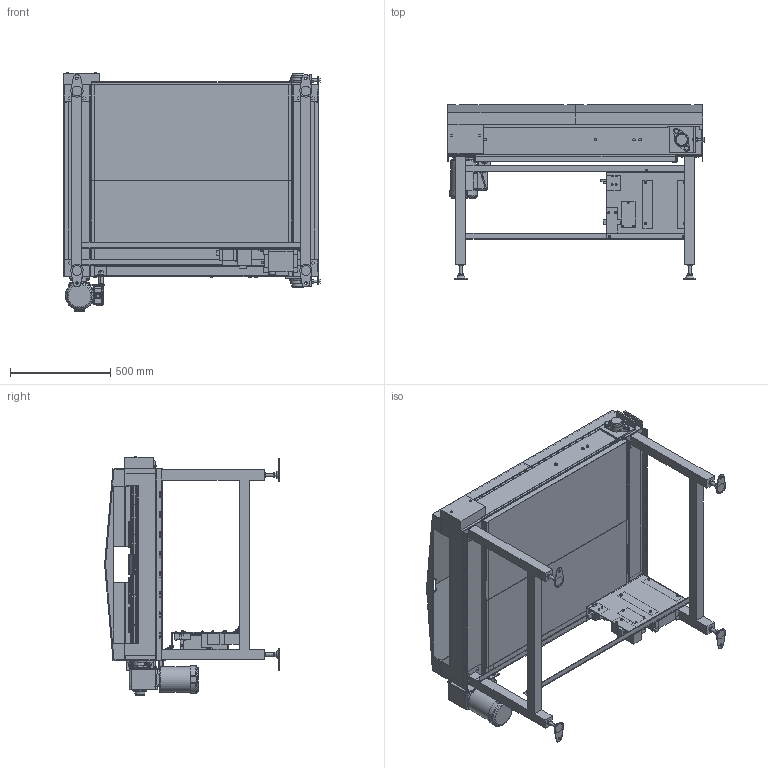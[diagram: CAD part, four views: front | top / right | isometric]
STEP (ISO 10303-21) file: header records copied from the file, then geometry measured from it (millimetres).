
FILE_DESCRIPTION( (''), '2;1');
FILE_NAME ('WEB-SLS-H-340-5-100-150-R-IVH-7.5.stp','2026-08-20T09:06:33',(''),(''),'spGate 21.9.5 (****-****-****-****)','','');
FILE_SCHEMA (('AUTOMOTIVE_DESIGN'));
Length unit declared in the file: millimetre
Products named in the file (84): WEB-SLS-H-340-5-100-150-R-IVH-7.5; TEMP_X_T-prt0; TEMP_X_T-prt1; TEMP_X_T-prt2; TEMP_X_T-prt3; TEMP_X_T-prt4; TEMP_X_T-prt5; TEMP_X_T-prt6; TEMP_X_T-prt7; TEMP_X_T-prt8; TEMP_X_T-prt9; TEMP_X_T-prt10; TEMP_X_T-prt11; TEMP_X_T-prt12; TEMP_X_T-prt13; TEMP_X_T-prt14; TEMP_X_T-prt15; TEMP_X_T-prt16; TEMP_X_T-prt17; TEMP_X_T-prt18; TEMP_X_T-prt19; TEMP_X_T-prt20; TEMP_X_T-prt21; TEMP_X_T-prt22; TEMP_X_T-prt23; TEMP_X_T-prt24; TEMP_X_T-prt25; TEMP_X_T-prt26; TEMP_X_T-prt27; TEMP_X_T-prt28; TEMP_X_T-prt29; TEMP_X_T-prt30; TEMP_X_T-prt31; TEMP_X_T-prt32; TEMP_X_T-prt33; TEMP_X_T-prt34; TEMP_X_T-prt35; TEMP_X_T-prt36; TEMP_X_T-prt37; TEMP_X_T-prt38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
Assembly tree (83 placements, depth 2):
  WEB-SLS-H-340-5-100-150-R-IVH-7.5
    TEMP_X_T-prt0
    TEMP_X_T-prt1
    TEMP_X_T-prt2
    TEMP_X_T-prt3
    TEMP_X_T-prt4
    TEMP_X_T-prt5
    TEMP_X_T-prt6
    TEMP_X_T-prt7
    TEMP_X_T-prt8
    TEMP_X_T-prt9
    TEMP_X_T-prt10
    TEMP_X_T-prt11
    TEMP_X_T-prt12
    TEMP_X_T-prt13
    TEMP_X_T-prt14
    TEMP_X_T-prt15
    TEMP_X_T-prt16
    TEMP_X_T-prt17
    TEMP_X_T-prt18
    TEMP_X_T-prt19
    TEMP_X_T-prt20
    TEMP_X_T-prt21
    TEMP_X_T-prt22
    TEMP_X_T-prt23
    TEMP_X_T-prt24
    TEMP_X_T-prt25
    TEMP_X_T-prt26
    TEMP_X_T-prt27
    TEMP_X_T-prt28
    TEMP_X_T-prt29
    TEMP_X_T-prt30
    TEMP_X_T-prt31
    TEMP_X_T-prt32
    TEMP_X_T-prt33
    TEMP_X_T-prt34
    TEMP_X_T-prt35
    TEMP_X_T-prt36
    TEMP_X_T-prt37
    TEMP_X_T-prt38
    TEMP_X_T-prt39
    TEMP_X_T-prt40
    TEMP_X_T-prt41
    TEMP_X_T-prt42
    TEMP_X_T-prt43
    TEMP_X_T-prt44
    TEMP_X_T-prt45
    TEMP_X_T-prt46
    TEMP_X_T-prt47
    TEMP_X_T-prt48
    TEMP_X_T-prt49
    TEMP_X_T-prt50
    TEMP_X_T-prt51
    TEMP_X_T-prt52
    TEMP_X_T-prt53
    TEMP_X_T-prt54
    TEMP_X_T-prt55
    TEMP_X_T-prt56
    TEMP_X_T-prt57
    TEMP_X_T-prt58
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Bounding box: 1276 x 870.6 x 1189.5 mm (x, y, z)
Volume: 67069916.1 mm3; surface area: 14459703.6 mm2
Topology: 83 solids, 83 shells, 3109 faces, 8696 edges, 5453 vertices
Faces by surface type: plane 2416, cylinder 574, bspline 115, sphere 4
Full cylindrical faces by diameter (mm): 4 x14, 4.15 x1, 5 x4, 6 x14, 8 x6, 8.376 x4, 8.5 x8, 9 x4, 9.2 x5, 10.5 x4, 11 x4, 11.8 x4, 12 x2, 12.2 x20, 12.5 x23, 13 x8, 14 x8, 15.4 x1, 16 x16, 18 x1, 20 x1, 21 x6, 22.2 x1, 23 x1, 24 x1, 25 x1, 28 x1, 30 x1, 30.5 x1, 34 x1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
Entity records: 172076 total; most frequent: CARTESIAN_POINT 21217, ORIENTED_EDGE 17384, DIRECTION 16189, COLOUR_RGB 11884, PRESENTATION_STYLE_ASSIGNMENT 11884, STYLED_ITEM 11884, EDGE_CURVE 8692, DRAUGHTING_PRE_DEFINED_CURVE_FONT 8692
